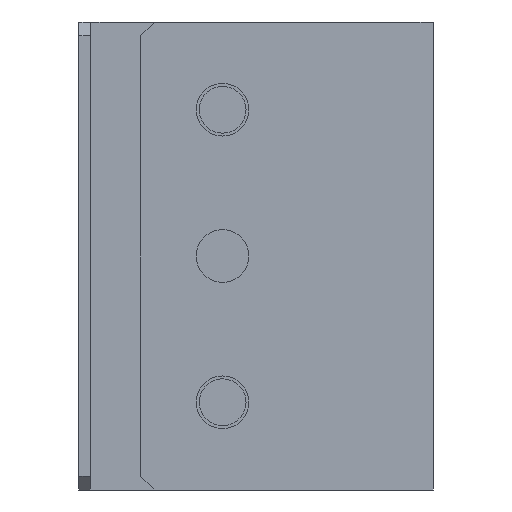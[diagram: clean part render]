
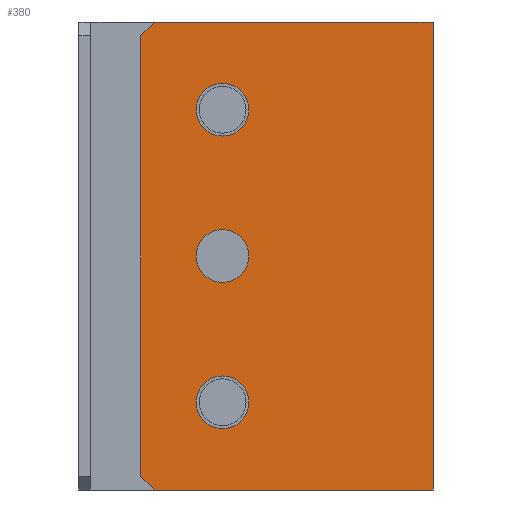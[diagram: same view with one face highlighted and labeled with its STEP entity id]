
A CAD part, left-side view. The second image highlights one B-rep face of the part: STEP entity #380.
In plain terms, the highlighted planar face has unit normal (-1, 0, 0) as drawn and (1, 0, 0) by its records, which use the part's own axes.
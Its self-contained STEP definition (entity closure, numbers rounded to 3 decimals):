
#3 = DIRECTION ( 'NONE',  ( -1., 0., 0. ) ) ;
#24 = DIRECTION ( 'NONE',  ( 0., 0., 1. ) ) ;
#51 = ORIENTED_EDGE ( 'NONE', *, *, #163, .F. ) ;
#65 = EDGE_CURVE ( 'NONE', #2045, #956, #180, .T. ) ;
#69 = LINE ( 'NONE', #1197, #907 ) ;
#81 = CARTESIAN_POINT ( 'NONE',  ( -71.56, -36., 4.5 ) ) ;
#94 = DIRECTION ( 'NONE',  ( 0., -0.707, -0.707 ) ) ;
#110 = CIRCLE ( 'NONE', #1329, 4.5 ) ;
#122 = VERTEX_POINT ( 'NONE', #1989 ) ;
#141 = DIRECTION ( 'NONE',  ( 0., 0., 1. ) ) ;
#155 = CARTESIAN_POINT ( 'NONE',  ( -71.56, -47.66, -40. ) ) ;
#161 = VECTOR ( 'NONE', #987, 1000. ) ;
#163 = EDGE_CURVE ( 'NONE', #291, #1434, #194, .T. ) ;
#168 = CARTESIAN_POINT ( 'NONE',  ( -71.56, -36., -25. ) ) ;
#180 = CIRCLE ( 'NONE', #454, 4.5 ) ;
#194 = LINE ( 'NONE', #992, #1684 ) ;
#217 = ORIENTED_EDGE ( 'NONE', *, *, #65, .T. ) ;
#228 = ORIENTED_EDGE ( 'NONE', *, *, #1935, .T. ) ;
#275 = DIRECTION ( 'NONE',  ( 0., 0.707, -0.707 ) ) ;
#279 = VECTOR ( 'NONE', #275, 1000. ) ;
#282 = EDGE_CURVE ( 'NONE', #122, #1693, #1375, .T. ) ;
#291 = VERTEX_POINT ( 'NONE', #2044 ) ;
#298 = VERTEX_POINT ( 'NONE', #1570 ) ;
#299 = FACE_OUTER_BOUND ( 'NONE', #423, .T. ) ;
#301 = CARTESIAN_POINT ( 'NONE',  ( -71.56, -36., 0. ) ) ;
#363 = VERTEX_POINT ( 'NONE', #589 ) ;
#377 = CARTESIAN_POINT ( 'NONE',  ( -71.56, -36., -20.5 ) ) ;
#380 = ADVANCED_FACE ( 'NONE', ( #461, #770, #1131, #299 ), #967, .F. ) ;
#410 = EDGE_CURVE ( 'NONE', #1755, #2116, #986, .T. ) ;
#423 = EDGE_LOOP ( 'NONE', ( #1000, #1824, #557, #772, #51, #890, #2033, #717 ) ) ;
#443 = DIRECTION ( 'NONE',  ( -1., 0., 0. ) ) ;
#451 = CIRCLE ( 'NONE', #1810, 4.5 ) ;
#454 = AXIS2_PLACEMENT_3D ( 'NONE', #301, #443, #2127 ) ;
#461 = FACE_BOUND ( 'NONE', #741, .T. ) ;
#470 = LINE ( 'NONE', #1141, #1829 ) ;
#481 = CIRCLE ( 'NONE', #550, 4.5 ) ;
#498 = CARTESIAN_POINT ( 'NONE',  ( -71.56, -36., 25. ) ) ;
#540 = EDGE_CURVE ( 'NONE', #291, #298, #470, .T. ) ;
#550 = AXIS2_PLACEMENT_3D ( 'NONE', #1216, #1080, #2097 ) ;
#557 = ORIENTED_EDGE ( 'NONE', *, *, #1031, .F. ) ;
#564 = LINE ( 'NONE', #784, #279 ) ;
#578 = VERTEX_POINT ( 'NONE', #1531 ) ;
#589 = CARTESIAN_POINT ( 'NONE',  ( -71.56, 0., 40. ) ) ;
#616 = VECTOR ( 'NONE', #1937, 1000. ) ;
#622 = LINE ( 'NONE', #1293, #616 ) ;
#624 = AXIS2_PLACEMENT_3D ( 'NONE', #2148, #1506, #24 ) ;
#705 = CARTESIAN_POINT ( 'NONE',  ( -71.56, -50., 37.66 ) ) ;
#717 = ORIENTED_EDGE ( 'NONE', *, *, #1771, .F. ) ;
#741 = EDGE_LOOP ( 'NONE', ( #872, #1436 ) ) ;
#743 = CARTESIAN_POINT ( 'NONE',  ( -71.56, -36., 29.5 ) ) ;
#757 = EDGE_CURVE ( 'NONE', #122, #1184, #622, .T. ) ;
#770 = FACE_BOUND ( 'NONE', #1798, .T. ) ;
#772 = ORIENTED_EDGE ( 'NONE', *, *, #2094, .T. ) ;
#784 = CARTESIAN_POINT ( 'NONE',  ( -71.56, -47.66, -40. ) ) ;
#806 = AXIS2_PLACEMENT_3D ( 'NONE', #1638, #1920, #141 ) ;
#872 = ORIENTED_EDGE ( 'NONE', *, *, #410, .T. ) ;
#887 = DIRECTION ( 'NONE',  ( -1., 0., 0. ) ) ;
#890 = ORIENTED_EDGE ( 'NONE', *, *, #540, .T. ) ;
#898 = DIRECTION ( 'NONE',  ( 0., 0., -1. ) ) ;
#907 = VECTOR ( 'NONE', #898, 1000. ) ;
#956 = VERTEX_POINT ( 'NONE', #2036 ) ;
#967 = PLANE ( 'NONE',  #806 ) ;
#968 = ORIENTED_EDGE ( 'NONE', *, *, #1854, .T. ) ;
#986 = CIRCLE ( 'NONE', #1089, 4.5 ) ;
#987 = DIRECTION ( 'NONE',  ( 0., 0., 1. ) ) ;
#988 = DIRECTION ( 'NONE',  ( 0., 0., 1. ) ) ;
#992 = CARTESIAN_POINT ( 'NONE',  ( -71.56, -4., -40. ) ) ;
#1000 = ORIENTED_EDGE ( 'NONE', *, *, #757, .F. ) ;
#1012 = VECTOR ( 'NONE', #1090, 1000. ) ;
#1031 = EDGE_CURVE ( 'NONE', #578, #1693, #1471, .T. ) ;
#1080 = DIRECTION ( 'NONE',  ( -1., 0., 0. ) ) ;
#1089 = AXIS2_PLACEMENT_3D ( 'NONE', #498, #3, #1467 ) ;
#1090 = DIRECTION ( 'NONE',  ( 0., 1., 0. ) ) ;
#1131 = FACE_BOUND ( 'NONE', #2032, .T. ) ;
#1137 = CARTESIAN_POINT ( 'NONE',  ( -71.56, -50., -36. ) ) ;
#1141 = CARTESIAN_POINT ( 'NONE',  ( -71.56, -4., -40. ) ) ;
#1184 = VERTEX_POINT ( 'NONE', #2026 ) ;
#1197 = CARTESIAN_POINT ( 'NONE',  ( -71.56, 0., -36. ) ) ;
#1216 = CARTESIAN_POINT ( 'NONE',  ( -71.56, -36., -25. ) ) ;
#1235 = VECTOR ( 'NONE', #94, 1000. ) ;
#1288 = CARTESIAN_POINT ( 'NONE',  ( -71.56, -36., -29.5 ) ) ;
#1293 = CARTESIAN_POINT ( 'NONE',  ( -71.56, -46., 40. ) ) ;
#1329 = AXIS2_PLACEMENT_3D ( 'NONE', #168, #1689, #988 ) ;
#1375 = LINE ( 'NONE', #705, #1235 ) ;
#1383 = DIRECTION ( 'NONE',  ( 0., 0., 1. ) ) ;
#1401 = LINE ( 'NONE', #1740, #1012 ) ;
#1427 = VERTEX_POINT ( 'NONE', #1288 ) ;
#1434 = VERTEX_POINT ( 'NONE', #155 ) ;
#1436 = ORIENTED_EDGE ( 'NONE', *, *, #2062, .T. ) ;
#1467 = DIRECTION ( 'NONE',  ( 0., 0., 1. ) ) ;
#1471 = LINE ( 'NONE', #1137, #161 ) ;
#1506 = DIRECTION ( 'NONE',  ( -1., 0., 0. ) ) ;
#1531 = CARTESIAN_POINT ( 'NONE',  ( -71.56, -50., -37.66 ) ) ;
#1569 = CIRCLE ( 'NONE', #624, 4.5 ) ;
#1570 = CARTESIAN_POINT ( 'NONE',  ( -71.56, 0., -40. ) ) ;
#1574 = CARTESIAN_POINT ( 'NONE',  ( -71.56, -50., 37.66 ) ) ;
#1638 = CARTESIAN_POINT ( 'NONE',  ( -71.56, -46., -36. ) ) ;
#1663 = DIRECTION ( 'NONE',  ( 0., -1., 0. ) ) ;
#1684 = VECTOR ( 'NONE', #1663, 1000. ) ;
#1689 = DIRECTION ( 'NONE',  ( -1., 0., 0. ) ) ;
#1693 = VERTEX_POINT ( 'NONE', #1574 ) ;
#1708 = EDGE_CURVE ( 'NONE', #1737, #1427, #481, .T. ) ;
#1710 = CARTESIAN_POINT ( 'NONE',  ( -71.56, -36., 25. ) ) ;
#1737 = VERTEX_POINT ( 'NONE', #377 ) ;
#1740 = CARTESIAN_POINT ( 'NONE',  ( -71.56, -46., 40. ) ) ;
#1751 = CARTESIAN_POINT ( 'NONE',  ( -71.56, -36., 20.5 ) ) ;
#1755 = VERTEX_POINT ( 'NONE', #743 ) ;
#1771 = EDGE_CURVE ( 'NONE', #1184, #363, #1401, .T. ) ;
#1798 = EDGE_LOOP ( 'NONE', ( #217, #968 ) ) ;
#1806 = DIRECTION ( 'NONE',  ( 0., 1., 0. ) ) ;
#1810 = AXIS2_PLACEMENT_3D ( 'NONE', #1710, #887, #1383 ) ;
#1824 = ORIENTED_EDGE ( 'NONE', *, *, #282, .T. ) ;
#1829 = VECTOR ( 'NONE', #1806, 1000. ) ;
#1854 = EDGE_CURVE ( 'NONE', #956, #2045, #1569, .T. ) ;
#1920 = DIRECTION ( 'NONE',  ( -1., 0., 0. ) ) ;
#1935 = EDGE_CURVE ( 'NONE', #1427, #1737, #110, .T. ) ;
#1937 = DIRECTION ( 'NONE',  ( 0., 1., 0. ) ) ;
#1951 = ORIENTED_EDGE ( 'NONE', *, *, #1708, .T. ) ;
#1989 = CARTESIAN_POINT ( 'NONE',  ( -71.56, -47.66, 40. ) ) ;
#1990 = EDGE_CURVE ( 'NONE', #363, #298, #69, .T. ) ;
#2026 = CARTESIAN_POINT ( 'NONE',  ( -71.56, -4., 40. ) ) ;
#2032 = EDGE_LOOP ( 'NONE', ( #1951, #228 ) ) ;
#2033 = ORIENTED_EDGE ( 'NONE', *, *, #1990, .F. ) ;
#2036 = CARTESIAN_POINT ( 'NONE',  ( -71.56, -36., -4.5 ) ) ;
#2044 = CARTESIAN_POINT ( 'NONE',  ( -71.56, -4., -40. ) ) ;
#2045 = VERTEX_POINT ( 'NONE', #81 ) ;
#2062 = EDGE_CURVE ( 'NONE', #2116, #1755, #451, .T. ) ;
#2094 = EDGE_CURVE ( 'NONE', #578, #1434, #564, .T. ) ;
#2097 = DIRECTION ( 'NONE',  ( 0., 0., 1. ) ) ;
#2116 = VERTEX_POINT ( 'NONE', #1751 ) ;
#2127 = DIRECTION ( 'NONE',  ( 0., 0., 1. ) ) ;
#2148 = CARTESIAN_POINT ( 'NONE',  ( -71.56, -36., 0. ) ) ;
